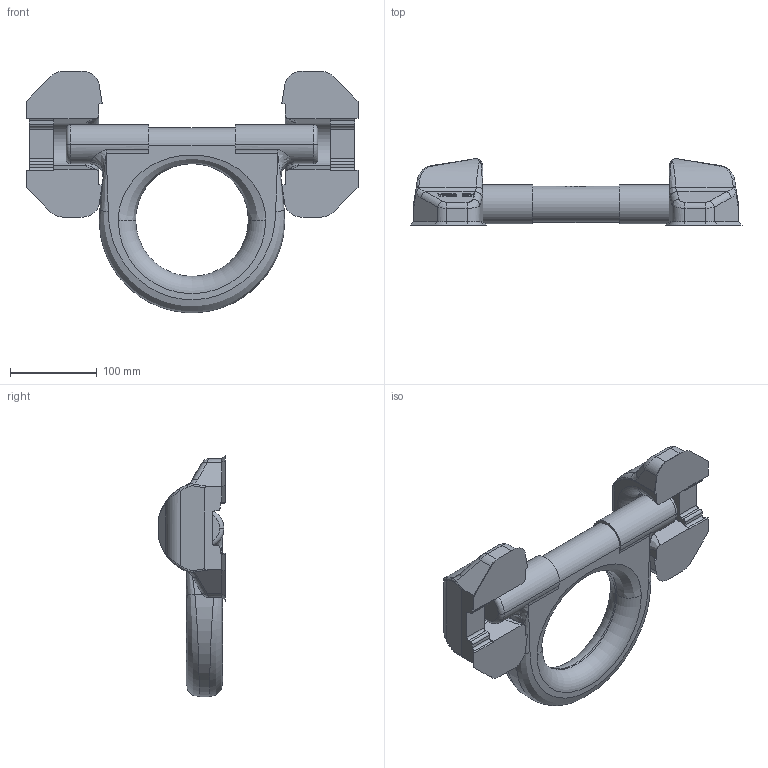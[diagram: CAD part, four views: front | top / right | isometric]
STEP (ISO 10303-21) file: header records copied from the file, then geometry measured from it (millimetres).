
FILE_DESCRIPTION((''),'2;1');
FILE_NAME('001-M06828-P-90_ASM','2008-10-28T',('Azubitbm'),('RAND'),'PRO/ENGINEER BY PARAMETRIC TECHNOLOGY CORPORATION, 2005030','PRO/ENGINEER BY PARAMETRIC TECHNOLOGY CORPORATION, 2005030','');
FILE_SCHEMA(('CONFIG_CONTROL_DESIGN'));
Length unit declared in the file: millimetre
Products named in the file (3): 001-M06480-RT1; 001-M06426-RT1; 001-M06828-P-90_ASM
Assembly tree (3 placements, depth 2):
  001-M06828-P-90_ASM
    001-M06480-RT1  x2
    001-M06426-RT1
Bounding box: 383 x 76.63 x 278.26 mm (x, y, z)
Volume: 2131132.2 mm3; surface area: 196322.6 mm2
Topology: 3 solids, 3 shells, 953 faces, 2636 edges, 1714 vertices
Faces by surface type: plane 789, bspline 78, cylinder 70, cone 8, torus 8
Entity records: 22597 total; most frequent: CARTESIAN_POINT 7674, ORIENTED_EDGE 3290, DIRECTION 2747, EDGE_CURVE 1645, VECTOR 1399, LINE 1399, VERTEX_POINT 1072, AXIS2_PLACEMENT_3D 674
